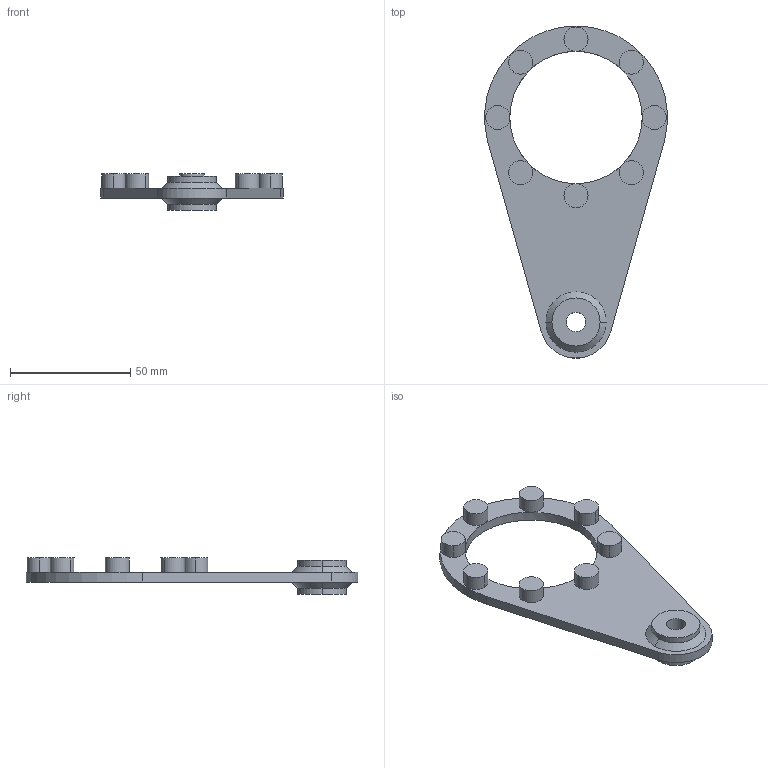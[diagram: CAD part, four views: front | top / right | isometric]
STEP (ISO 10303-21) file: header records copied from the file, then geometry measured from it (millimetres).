
FILE_DESCRIPTION(/* description */ (''),/* implementation_level */ '2;1');
FILE_NAME(/* name */ '5_BRACCIO DI REAZIONE NMRV030',/* time_stamp */ '2025-10-09T13:57:21+02:00',/* author */ (''),/* organization */ (''),/* preprocessor_version */ 'ST-DEVELOPER v19.2',/* originating_system */ 'Rhino 8.23',/* authorisation */ '');
FILE_SCHEMA (('CONFIG_CONTROL_DESIGN'));
Length unit declared in the file: millimetre
Products named in the file (2): Document; 30-85
Bounding box: 75.86 x 137.94 x 15 mm (x, y, z)
Volume: 26305.6 mm3; surface area: 14116.3 mm2
Topology: 1 solids, 1 shells, 44 faces, 106 edges, 66 vertices
Faces by surface type: cylinder 26, plane 14, bspline 4
Entity records: 1650 total; most frequent: CARTESIAN_POINT 432, ORIENTED_EDGE 212, DIRECTION 188, AXIS2_PLACEMENT_3D 114, EDGE_CURVE 106, TRIMMED_CURVE 70, CIRCLE 70, VERTEX_POINT 66
